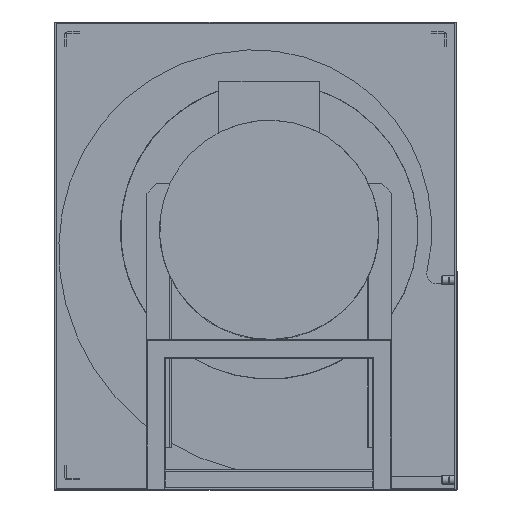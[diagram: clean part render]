
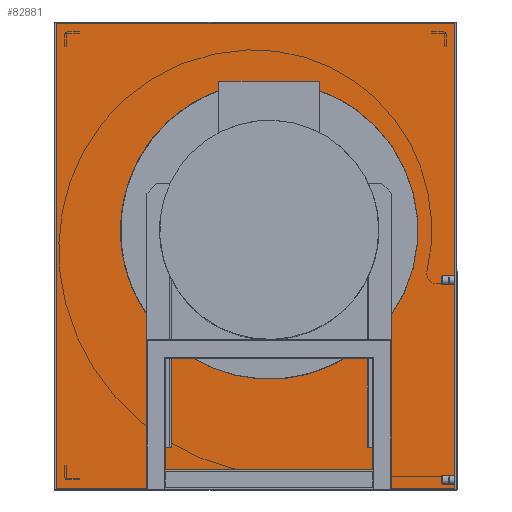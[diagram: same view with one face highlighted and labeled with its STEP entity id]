
A CAD part, top view. The second image highlights one B-rep face of the part: STEP entity #82881.
In plain terms, the highlighted planar face has unit normal (0, 0, 1).
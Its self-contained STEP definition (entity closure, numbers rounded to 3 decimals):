
#1337=FACE_BOUND('',#18093,.T.);
#1488=CIRCLE('',#83187,152.);
#8801=PLANE('',#86813);
#12790=FACE_OUTER_BOUND('',#18092,.T.);
#18092=EDGE_LOOP('',(#78452,#78453,#78454,#78455));
#18093=EDGE_LOOP('',(#78456));
#28012=LINE('',#136086,#37906);
#28014=LINE('',#136094,#37908);
#28016=LINE('',#136102,#37910);
#28017=LINE('',#136103,#37911);
#37906=VECTOR('',#104534,10.);
#37908=VECTOR('',#104542,10.);
#37910=VECTOR('',#104550,10.);
#37911=VECTOR('',#104551,10.);
#39596=VERTEX_POINT('',#117062);
#45831=VERTEX_POINT('',#136083);
#45832=VERTEX_POINT('',#136085);
#45835=VERTEX_POINT('',#136093);
#45838=VERTEX_POINT('',#136101);
#47368=EDGE_CURVE('',#39596,#39596,#1488,.T.);
#56712=EDGE_CURVE('',#45832,#45831,#28012,.T.);
#56716=EDGE_CURVE('',#45835,#45832,#28014,.T.);
#56720=EDGE_CURVE('',#45831,#45838,#28016,.T.);
#56721=EDGE_CURVE('',#45838,#45835,#28017,.T.);
#78452=ORIENTED_EDGE('',*,*,#56712,.T.);
#78453=ORIENTED_EDGE('',*,*,#56720,.T.);
#78454=ORIENTED_EDGE('',*,*,#56721,.T.);
#78455=ORIENTED_EDGE('',*,*,#56716,.T.);
#78456=ORIENTED_EDGE('',*,*,#47368,.T.);
#82881=ADVANCED_FACE('',(#12790,#1337),#8801,.T.);
#83187=AXIS2_PLACEMENT_3D('',#117063,#88126,#88127);
#86813=AXIS2_PLACEMENT_3D('',#136100,#104548,#104549);
#88126=DIRECTION('center_axis',(0.,0.,
-1.));
#88127=DIRECTION('ref_axis',(1.,0.,0.));
#104534=DIRECTION('',(0.,1.,0.));
#104542=DIRECTION('',(1.,0.,0.));
#104548=DIRECTION('center_axis',(0.,0.,
1.));
#104549=DIRECTION('ref_axis',(1.,0.,0.));
#104550=DIRECTION('',(-1.,0.,0.));
#104551=DIRECTION('',(0.,-1.,0.));
#117062=CARTESIAN_POINT('',(-138.,26.,1.5));
#117063=CARTESIAN_POINT('Origin',(14.,26.,1.5));
#136083=CARTESIAN_POINT('',(203.5,237.5,1.5));
#136085=CARTESIAN_POINT('',(203.5,-237.5,1.5));
#136086=CARTESIAN_POINT('',(203.5,-28.537,1.5));
#136093=CARTESIAN_POINT('',(-203.5,-237.5,1.5));
#136094=CARTESIAN_POINT('',(-24.287,-237.5,1.5));
#136100=CARTESIAN_POINT('Origin',(0.,0.,
1.5));
#136101=CARTESIAN_POINT('',(-203.5,237.5,1.5));
#136102=CARTESIAN_POINT('',(24.287,237.5,1.5));
#136103=CARTESIAN_POINT('',(-203.5,28.537,1.5));
